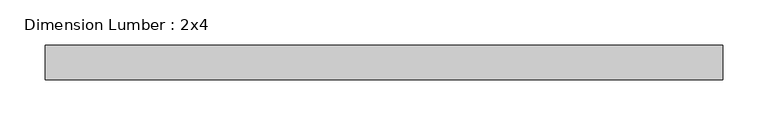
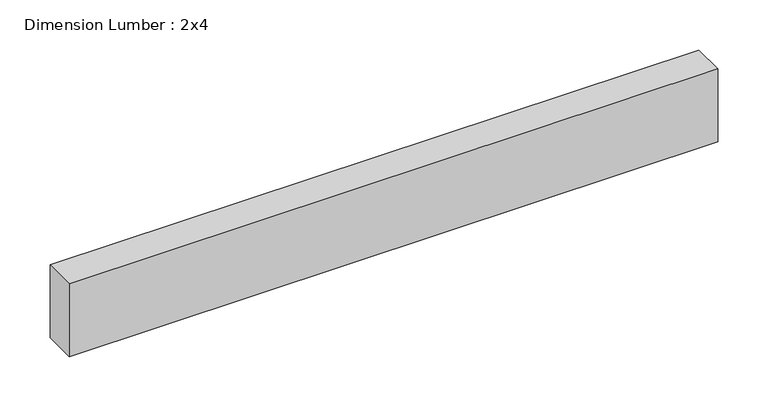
"""IFC4 building model written with IfcOpenShell, lengths in millimetres: beam geometry, Dimension Lumber : 2x4."""

from ifc_helpers import new_model, si_unit, frame, origin, place, context, project, spatial, polyline, outline, extrude, source, transform, mapped, element, save


def dimension_lumber_2x4_c7c32fdf(model_context):
    return source(origin(), model_context, "Body", "SweptSolid", [
        extrude(outline(polyline([(374.65, 19.05), (374.65, -19.05), (-374.65, -19.05), (-374.65, 19.05), (374.65, 19.05)])), frame((0.0, 0.0, -44.45), z_axis=(0.0, 0.0, 1.0), x_axis=(1.0, 0.0, 0.0)), (0.0, 0.0, 1.0), 88.9),
    ])


if __name__ == "__main__":
    model = new_model("IFC4")
    model_context = context("Model", 3, world=origin())
    ifc_project = project(units=[si_unit("LENGTHUNIT", "METRE", prefix="MILLI")], contexts=[model_context])
    site = spatial("IfcSite", under=ifc_project)
    building = spatial("IfcBuilding", under=site)
    placement = place(None, origin())
    dimension_lumber_2x4_shape = dimension_lumber_2x4_c7c32fdf(model_context)
    element("IfcBeam", 1, ObjectType="Dimension Lumber : 2x4", at=placement, inside=building, context=model_context, shape_type="MappedRepresentation", body=[
        mapped(dimension_lumber_2x4_shape, transform((0.0, 0.0, 0.0), x_axis=(1.0, 0.0, 0.0), y_axis=(0.0, 1.0, 0.0), z_axis=(0.0, 0.0, 1.0))),
    ])
    save(model, "model.ifc")
